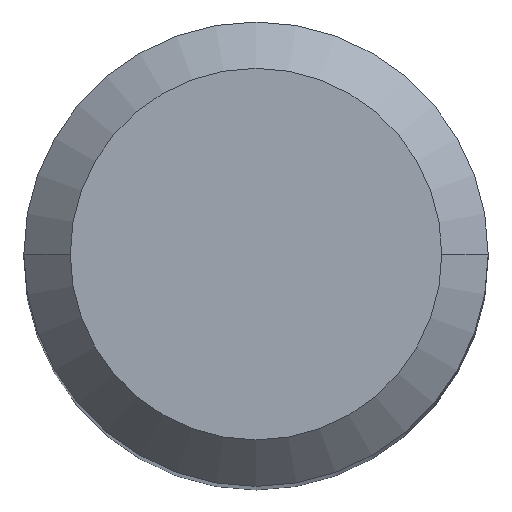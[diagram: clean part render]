
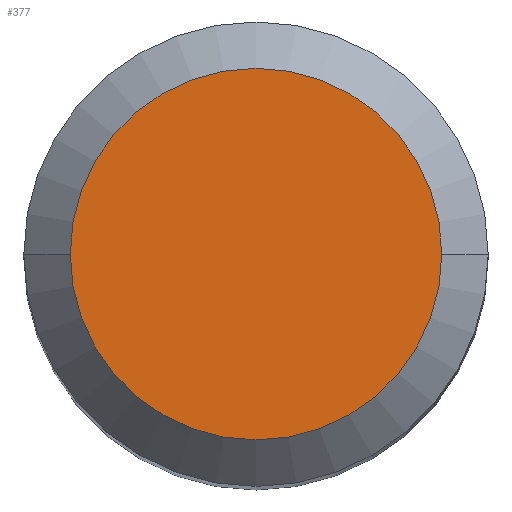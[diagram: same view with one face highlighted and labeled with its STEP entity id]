
A CAD part, top view. The second image highlights one B-rep face of the part: STEP entity #377.
In plain terms, the highlighted planar face has unit normal (0, 0, 1).
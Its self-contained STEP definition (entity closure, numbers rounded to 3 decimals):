
#74 = CARTESIAN_POINT ( 'NONE',  ( -4., 0., 0. ) ) ;
#92 = ORIENTED_EDGE ( 'NONE', *, *, #232, .F. ) ;
#106 = AXIS2_PLACEMENT_3D ( 'NONE', #475, #421, #217 ) ;
#122 = EDGE_CURVE ( 'NONE', #145, #446, #344, .T. ) ;
#145 = VERTEX_POINT ( 'NONE', #162 ) ;
#150 = CARTESIAN_POINT ( 'NONE',  ( 0., 4., 0. ) ) ;
#162 = CARTESIAN_POINT ( 'NONE',  ( 4., 0., 0. ) ) ;
#198 = DIRECTION ( 'NONE',  ( 0., 0., 1. ) ) ;
#217 = DIRECTION ( 'NONE',  ( -1., 0., 0. ) ) ;
#232 = EDGE_CURVE ( 'NONE', #446, #145, #486, .T. ) ;
#256 = DIRECTION ( 'NONE',  ( -1., 0., 0. ) ) ;
#257 = ORIENTED_EDGE ( 'NONE', *, *, #122, .F. ) ;
#325 = CARTESIAN_POINT ( 'NONE',  ( 0., 0., 0. ) ) ;
#344 = CIRCLE ( 'NONE', #106, 4. ) ;
#377 = ADVANCED_FACE ( 'NONE', ( #503 ), #501, .T. ) ;
#406 = AXIS2_PLACEMENT_3D ( 'NONE', #150, #198, #507 ) ;
#421 = DIRECTION ( 'NONE',  ( 0., 0., -1. ) ) ;
#446 = VERTEX_POINT ( 'NONE', #74 ) ;
#475 = CARTESIAN_POINT ( 'NONE',  ( 0., 0., 0. ) ) ;
#481 = DIRECTION ( 'NONE',  ( 0., 0., -1. ) ) ;
#486 = CIRCLE ( 'NONE', #506, 4. ) ;
#501 = PLANE ( 'NONE',  #406 ) ;
#503 = FACE_OUTER_BOUND ( 'NONE', #513, .T. ) ;
#506 = AXIS2_PLACEMENT_3D ( 'NONE', #325, #481, #256 ) ;
#507 = DIRECTION ( 'NONE',  ( 1., 0., 0. ) ) ;
#513 = EDGE_LOOP ( 'NONE', ( #92, #257 ) ) ;
